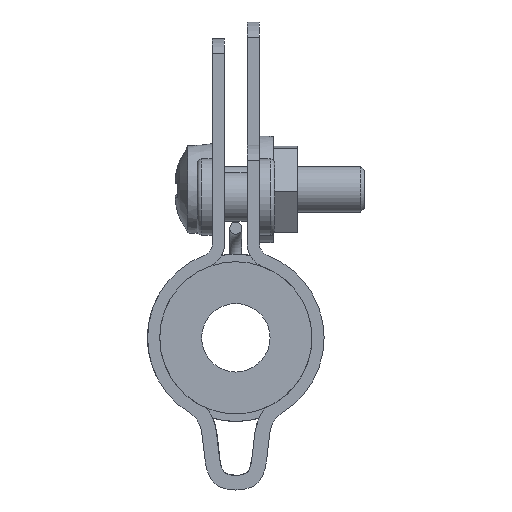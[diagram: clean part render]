
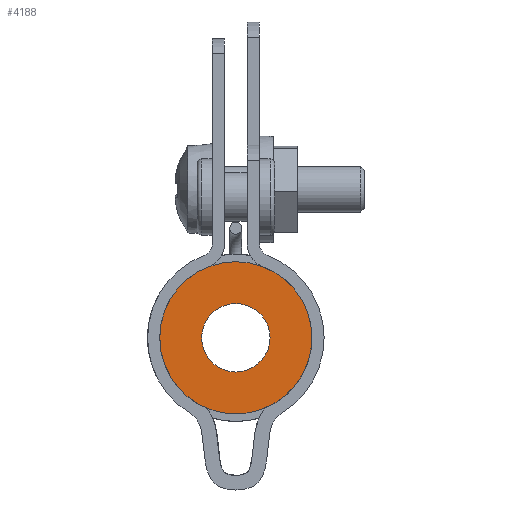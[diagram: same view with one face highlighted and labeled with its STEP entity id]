
A CAD part, front view. The second image highlights one B-rep face of the part: STEP entity #4188.
In plain terms, the highlighted planar face has unit normal (0, -1, 0).
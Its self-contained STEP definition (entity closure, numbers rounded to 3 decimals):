
#678=FACE_BOUND($,#1284,.T.);
#679=FACE_BOUND($,#1285,.T.);
#1284=EDGE_LOOP($,(#3332));
#1285=EDGE_LOOP($,(#3333));
#1514=CIRCLE($,#4571,5.);
#1547=CIRCLE($,#4631,2.25);
#1845=VERTEX_POINT($,#7331);
#1882=VERTEX_POINT($,#7442);
#2346=EDGE_CURVE($,#1845,#1845,#1514,.T.);
#2383=EDGE_CURVE($,#1882,#1882,#1547,.T.);
#3332=ORIENTED_EDGE($,*,*,#2383,.T.);
#3333=ORIENTED_EDGE($,*,*,#2346,.T.);
#3710=PLANE($,#4633);
#4188=ADVANCED_FACE($,(#678,#679),#3710,.T.);
#4571=AXIS2_PLACEMENT_3D($,#7332,#5508,#5509);
#4631=AXIS2_PLACEMENT_3D($,#7443,#5630,#5631);
#4633=AXIS2_PLACEMENT_3D($,#7445,#5634,#5635);
#5508=DIRECTION('center_axis',(0.,-1.,0.));
#5509=DIRECTION('ref_axis',(1.,0.,0.));
#5630=DIRECTION('center_axis',(0.,1.,0.));
#5631=DIRECTION('ref_axis',(1.,0.,0.));
#5634=DIRECTION('center_axis',(0.,-1.,0.));
#5635=DIRECTION('ref_axis',(0.,0.,-1.));
#7331=CARTESIAN_POINT('',(16.645,46.577,19.693));
#7332=CARTESIAN_POINT('Origin',(21.645,46.577,19.693));
#7442=CARTESIAN_POINT('',(19.395,46.577,19.693));
#7443=CARTESIAN_POINT('Origin',(21.645,46.577,19.693));
#7445=CARTESIAN_POINT('Origin',(21.645,46.577,19.693));
